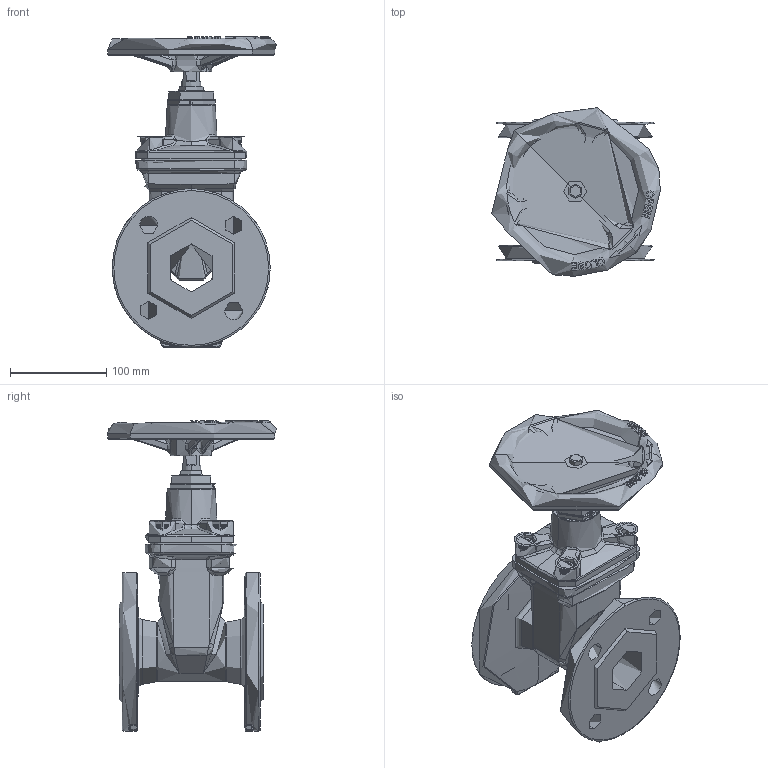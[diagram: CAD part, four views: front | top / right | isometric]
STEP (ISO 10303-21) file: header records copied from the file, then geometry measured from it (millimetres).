
FILE_DESCRIPTION (( 'STEP AP214' ), '1' );
FILE_NAME ('VOC4241C-00EP0050.STEP', '2019-10-22T09:54:18', ( '' ), ( '' ), 'SwSTEP 2.0', 'SolidWorks 2017', '' );
FILE_SCHEMA (( 'AUTOMOTIVE_DESIGN' ));
Length unit declared in the file: millimetre
Products named in the file (1): VOC4241C-00EP0050
Bounding box: 175.48 x 175.48 x 323 mm (x, y, z)
Topology: 0 solids, 34 shells, 3087 faces, 8032 edges, 5024 vertices
Faces by surface type: bspline 995, cylinder 859, plane 813, cone 252, torus 160, sphere 8
Entity records: 262584 total; most frequent: CARTESIAN_POINT 164907, ORIENTED_EDGE 15988, DIRECTION 9247, EDGE_CURVE 8008, VERTEX_POINT 5020, B_SPLINE_CURVE_WITH_KNOTS 3976, AXIS2_PLACEMENT_3D 3615, EDGE_LOOP 3218
